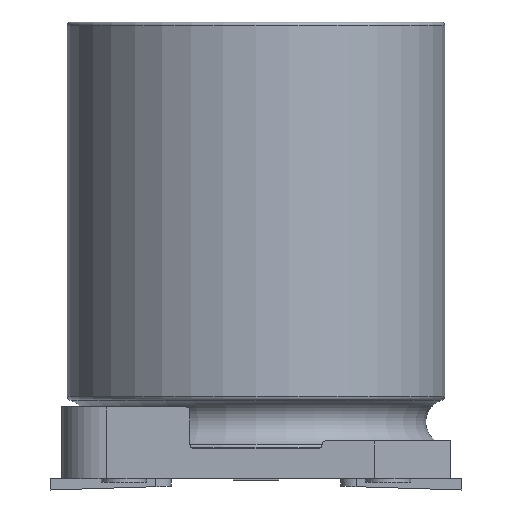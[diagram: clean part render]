
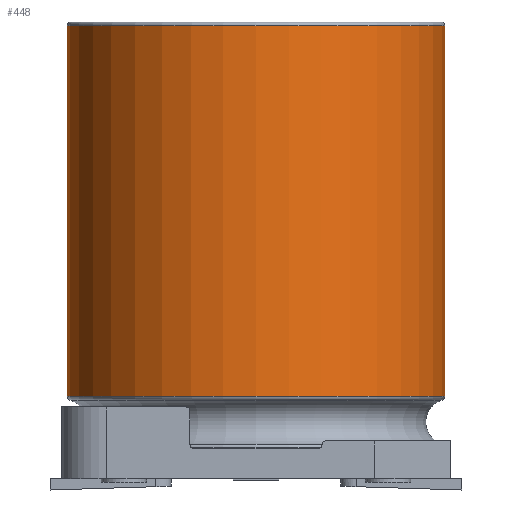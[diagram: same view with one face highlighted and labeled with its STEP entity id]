
A CAD part, front view. The second image highlights one B-rep face of the part: STEP entity #448.
In plain terms, the highlighted cylindrical face has radius 5 mm (diameter 10 mm), a full revolution.
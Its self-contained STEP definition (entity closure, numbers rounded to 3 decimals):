
#220=CYLINDRICAL_SURFACE('',#2509,5.);
#448=ADVANCED_FACE('',(#602,#603),#220,.T.);
#602=FACE_BOUND('',#680,.T.);
#603=FACE_BOUND('',#681,.T.);
#680=EDGE_LOOP('',(#1139));
#681=EDGE_LOOP('',(#1140));
#802=CIRCLE('',#2507,5.);
#803=CIRCLE('',#2508,5.);
#1139=ORIENTED_EDGE('',*,*,#1860,.T.);
#1140=ORIENTED_EDGE('',*,*,#1861,.T.);
#1609=VERTEX_POINT('',#3786);
#1610=VERTEX_POINT('',#3788);
#1860=EDGE_CURVE('',#1609,#1609,#802,.T.);
#1861=EDGE_CURVE('',#1610,#1610,#803,.T.);
#2507=AXIS2_PLACEMENT_3D('',#3785,#2935,#2936);
#2508=AXIS2_PLACEMENT_3D('',#3787,#2937,#2938);
#2509=AXIS2_PLACEMENT_3D('',#3789,#2939,#2940);
#2935=DIRECTION('',(0.,0.,1.));
#2936=DIRECTION('',(1.,0.,0.));
#2937=DIRECTION('',(0.,0.,-1.));
#2938=DIRECTION('',(-1.,0.,0.));
#2939=DIRECTION('',(0.,0.,-1.));
#2940=DIRECTION('',(-1.,0.,0.));
#3785=CARTESIAN_POINT('',(0.,0.,2.178));
#3786=CARTESIAN_POINT('',(5.,0.,2.178));
#3787=CARTESIAN_POINT('',(0.,0.,12.));
#3788=CARTESIAN_POINT('',(-5.,0.,12.));
#3789=CARTESIAN_POINT('',(0.,0.,0.));
